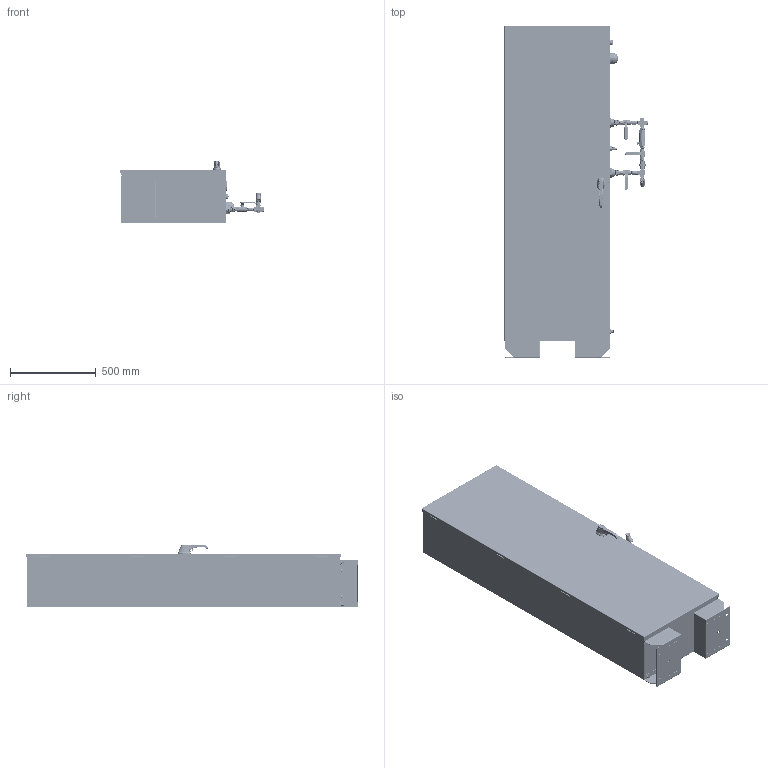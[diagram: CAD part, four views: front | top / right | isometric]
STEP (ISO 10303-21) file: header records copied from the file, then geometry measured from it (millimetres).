
FILE_DESCRIPTION(/* description */ ('PGEN-10 Wall-Mount Nitrogen Generator for Dry and Pre-Action Fire Sprinkler Systems','CAx-IF Rec.Pracs.---Representation and Presentation of Product Manufacturing Information (PMI)---4.0---2014-10-13'),/* implementation_level */ '2;1');
FILE_NAME(/* name */ 'C:\Users\aandrews\Box\ECS CAD Library\ECS Products\PGEN Nitrogen Generators\PGEN-50\Export\PGEN-50.stp',/* time_stamp */ '2020-03-05T14:34:40-06:00',/* author */ ('aandrews'),/* organization */ ('Engineered Corrosion Solutions'),/* preprocessor_version */ 'ST-DEVELOPER v18',/* originating_system */ 'Autodesk Inventor 2020',/* authorisation */ '');
FILE_SCHEMA (('AP242_MANAGED_MODEL_BASED_3D_ENGINEERING_MIM_LF { 1 0 10303 442 1 1 4 }'));
Products named in the file (1): PGEN-50_Shrinkwrap_1
Bounding box: 842.15 x 1937.03 x 367.61 mm (x, y, z)
Volume: 11699971.8 mm3; surface area: 10724868.4 mm2
Topology: 11 solids, 11 shells, 4335 faces, 12437 edges, 8164 vertices
Faces by surface type: plane 1627, cylinder 1105, cone 1049, bspline 451, torus 75, sphere 28
Full cylindrical faces by diameter (mm): 1.905 x2, 2 x2, 2.02 x28, 2.286 x8, 2.54 x8, 2.845 x15, 2.997 x2, 3.175 x5, 3.5 x3, 3.8 x2, 4.1 x3, 5 x1, 5.105 x4, 5.156 x4, 5.563 x2, 6.35 x9, 6.553 x2, 6.607 x1, 6.909 x2, 6.945 x1, 7.057 x28, 7.137 x4, 7.772 x1, 7.785 x25, 7.836 x6, 7.938 x4, 7.952 x1, 8 x2, 8.458 x8, 8.636 x1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
Entity records: 396680 total; most frequent: CARTESIAN_POINT 284298, ORIENTED_EDGE 24814, DIRECTION 20226, EDGE_CURVE 12407, VERTEX_POINT 8164, AXIS2_PLACEMENT_3D 7586, LINE 5054, VECTOR 5054
